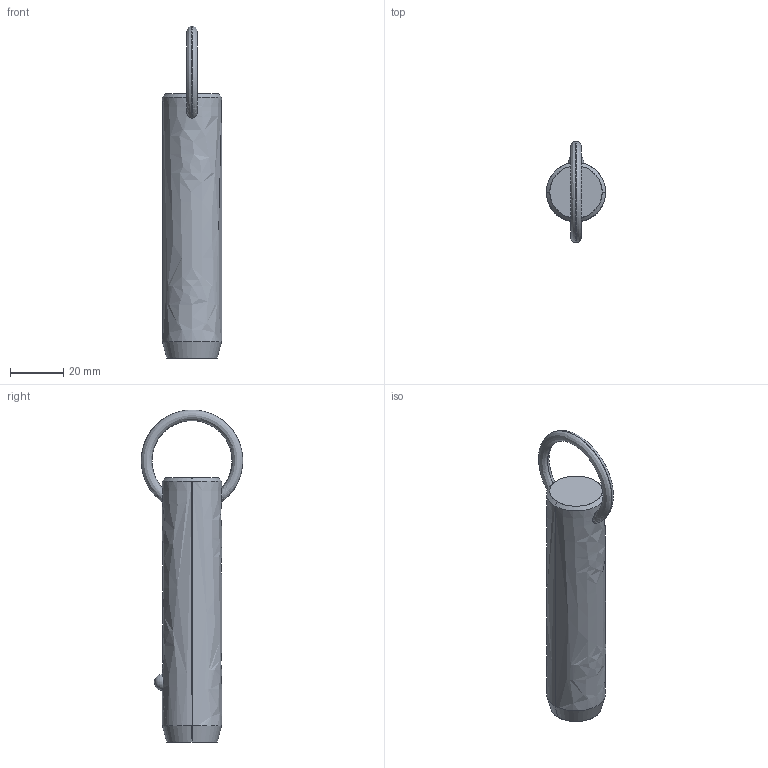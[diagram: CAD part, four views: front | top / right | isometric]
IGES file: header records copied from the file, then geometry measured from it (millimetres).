
Start section: SolidWorks IGES file using analytic representation for surfaces
Global section: file name: C:\Users\liam_\OneDrive\Documents\WORK\Work for WixRoyd\Job Files\J-00019 - Matt Davis CAD Checking\04. CAD Drawings\automotion20190605\P1250.2_v2\P1250.2_v2_20190729_IGES\P1250.087-240.igs; native system: SolidWorks 2017; preprocessor: SolidWorks 2017; author: liam_; date: 190730.000721; units: millimetre
Bounding box: 22.2 x 38.1 x 124.48 mm (x, y, z)
Surface area: 8555.3 mm2 (no closed solid volume)
Topology: 0 solids, 0 shells, 12 faces, 302 edges, 300 vertices
Faces by surface type: revolution 8, bspline 4
